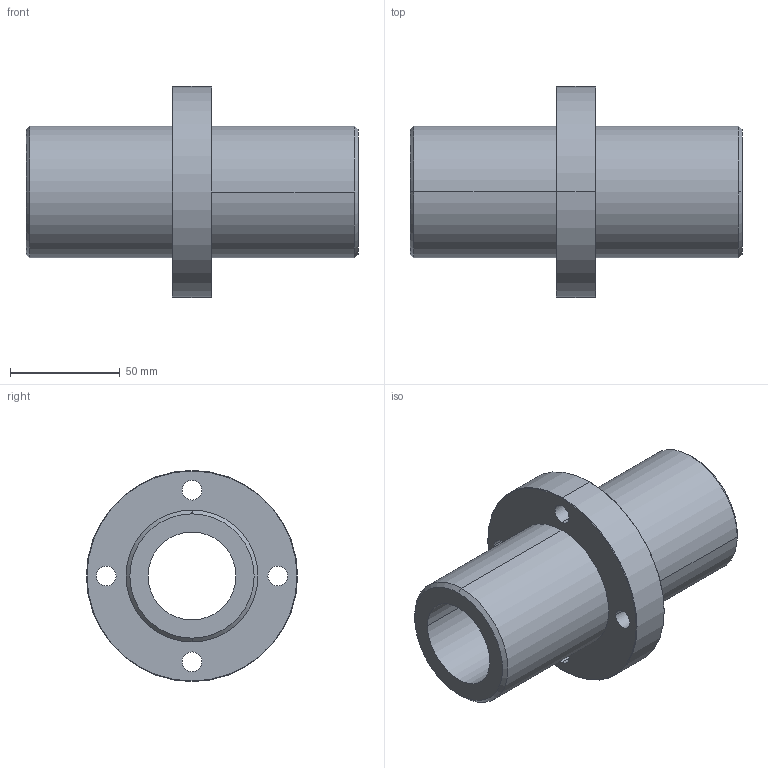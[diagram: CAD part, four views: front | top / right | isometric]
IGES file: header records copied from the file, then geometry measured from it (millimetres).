
Start section: 3D InterOp IGES (Version 21 0 1), Spatial Corp. Copyright (c) 1999-2007.
Global section: file name: CFPJR40.igs; native system: Spatial Corp.; preprocessor: 3D InterOp GENERIC/IGES 3.0; author: Noname; organization: Noname; date: 20220324.131415; units: millimetre
Bounding box: 151 x 96 x 96 mm (x, y, z)
Surface area: 62988.4 mm2 (no closed solid volume)
Topology: 0 solids, 0 shells, 40 faces, 180 edges, 180 vertices
Faces by surface type: revolution 32, extrusion 8
